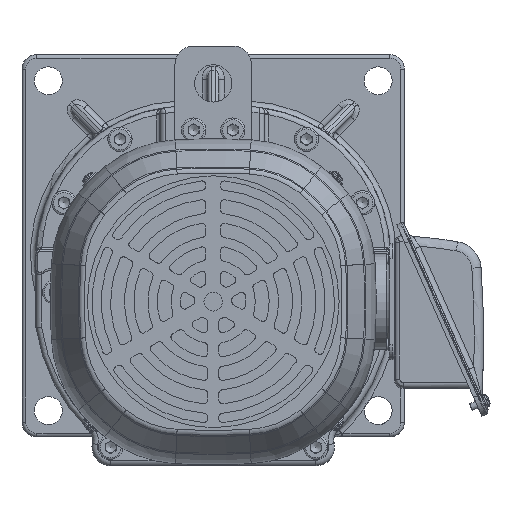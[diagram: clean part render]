
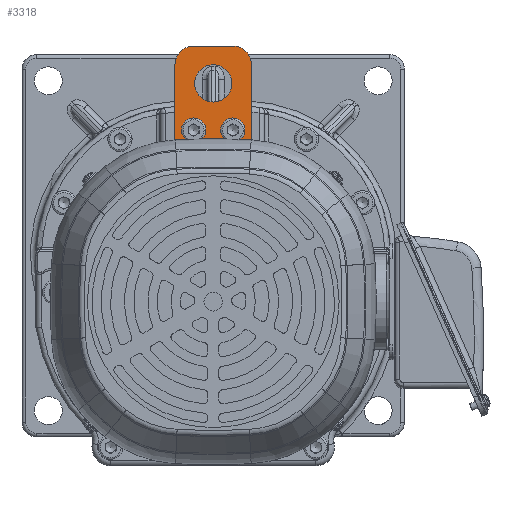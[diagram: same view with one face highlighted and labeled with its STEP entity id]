
A CAD part, left-side view. The second image highlights one B-rep face of the part: STEP entity #3318.
In plain terms, the highlighted planar face has unit normal (-1, 0, 0).
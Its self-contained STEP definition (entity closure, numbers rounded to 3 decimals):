
#3318 = ADVANCED_FACE( '', ( #8130, #8131, #8132, #8133 ), #8134, .T. );
#8130 = FACE_BOUND( '', #19453, .T. );
#8131 = FACE_OUTER_BOUND( '', #19454, .T. );
#8132 = FACE_BOUND( '', #19455, .T. );
#8133 = FACE_BOUND( '', #19456, .T. );
#8134 = PLANE( '', #19457 );
#19453 = EDGE_LOOP( '', ( #37246 ) );
#19454 = EDGE_LOOP( '', ( #37247, #37248, #37249, #37250, #37251, #37252, #37253, #37254 ) );
#19455 = EDGE_LOOP( '', ( #37255 ) );
#19456 = EDGE_LOOP( '', ( #37256 ) );
#19457 = AXIS2_PLACEMENT_3D( '', #37257, #37258, #37259 );
#37246 = ORIENTED_EDGE( '', *, *, #51553, .F. );
#37247 = ORIENTED_EDGE( '', *, *, #49756, .T. );
#37248 = ORIENTED_EDGE( '', *, *, #51554, .T. );
#37249 = ORIENTED_EDGE( '', *, *, #51555, .T. );
#37250 = ORIENTED_EDGE( '', *, *, #51556, .T. );
#37251 = ORIENTED_EDGE( '', *, *, #51557, .T. );
#37252 = ORIENTED_EDGE( '', *, *, #51558, .T. );
#37253 = ORIENTED_EDGE( '', *, *, #51559, .T. );
#37254 = ORIENTED_EDGE( '', *, *, #51560, .T. );
#37255 = ORIENTED_EDGE( '', *, *, #51561, .T. );
#37256 = ORIENTED_EDGE( '', *, *, #51562, .F. );
#37257 = CARTESIAN_POINT( '', ( 15.737, -89.444, 62.268 ) );
#37258 = DIRECTION( '', ( -1., 0., 0. ) );
#37259 = DIRECTION( '', ( 0., 0., -1. ) );
#49756 = EDGE_CURVE( '', #57328, #57326, #57329, .T. );
#51553 = EDGE_CURVE( '', #60169, #60169, #60170, .T. );
#51554 = EDGE_CURVE( '', #57326, #60171, #60172, .T. );
#51555 = EDGE_CURVE( '', #60171, #60173, #60174, .T. );
#51556 = EDGE_CURVE( '', #60173, #60175, #60176, .T. );
#51557 = EDGE_CURVE( '', #60175, #60177, #60178, .T. );
#51558 = EDGE_CURVE( '', #60177, #60179, #60180, .T. );
#51559 = EDGE_CURVE( '', #60179, #60181, #60182, .T. );
#51560 = EDGE_CURVE( '', #60181, #57328, #60183, .T. );
#51561 = EDGE_CURVE( '', #60184, #60184, #60185, .T. );
#51562 = EDGE_CURVE( '', #60186, #60186, #60187, .T. );
#57326 = VERTEX_POINT( '', #68935 );
#57328 = VERTEX_POINT( '', #68938 );
#57329 = CIRCLE( '', #68939, 5. );
#60169 = VERTEX_POINT( '', #74552 );
#60170 = CIRCLE( '', #74553, 6.5 );
#60171 = VERTEX_POINT( '', #74554 );
#60172 = LINE( '', #74555, #74556 );
#60173 = VERTEX_POINT( '', #74557 );
#60174 = CIRCLE( '', #74558, 5. );
#60175 = VERTEX_POINT( '', #74559 );
#60176 = LINE( '', #74560, #74561 );
#60177 = VERTEX_POINT( '', #74562 );
#60178 = CIRCLE( '', #74563, 10. );
#60179 = VERTEX_POINT( '', #74564 );
#60180 = LINE( '', #74565, #74566 );
#60181 = VERTEX_POINT( '', #74567 );
#60182 = CIRCLE( '', #74568, 10. );
#60183 = LINE( '', #74569, #74570 );
#60184 = VERTEX_POINT( '', #74571 );
#60185 = CIRCLE( '', #74572, 10. );
#60186 = VERTEX_POINT( '', #74573 );
#60187 = CIRCLE( '', #74574, 6.5 );
#68935 = CARTESIAN_POINT( '', ( 15.737, -89.444, 57.268 ) );
#68938 = CARTESIAN_POINT( '', ( 15.737, -84.444, 62.268 ) );
#68939 = AXIS2_PLACEMENT_3D( '', #84657, #84658, #84659 );
#74552 = CARTESIAN_POINT( '', ( 15.737, -121.944, 67.268 ) );
#74553 = AXIS2_PLACEMENT_3D( '', #87550, #87551, #87552 );
#74554 = CARTESIAN_POINT( '', ( 15.737, -120.444, 57.268 ) );
#74555 = CARTESIAN_POINT( '', ( 15.737, -89.444, 57.268 ) );
#74556 = VECTOR( '', #87553, 1000. );
#74557 = CARTESIAN_POINT( '', ( 15.737, -125.444, 62.268 ) );
#74558 = AXIS2_PLACEMENT_3D( '', #87554, #87555, #87556 );
#74559 = CARTESIAN_POINT( '', ( 15.737, -125.444, 102.268 ) );
#74560 = CARTESIAN_POINT( '', ( 15.737, -125.444, 62.268 ) );
#74561 = VECTOR( '', #87557, 1000. );
#74562 = CARTESIAN_POINT( '', ( 15.737, -115.444, 112.268 ) );
#74563 = AXIS2_PLACEMENT_3D( '', #87558, #87559, #87560 );
#74564 = CARTESIAN_POINT( '', ( 15.737, -94.444, 112.268 ) );
#74565 = CARTESIAN_POINT( '', ( 15.737, -115.444, 112.268 ) );
#74566 = VECTOR( '', #87561, 1000. );
#74567 = CARTESIAN_POINT( '', ( 15.737, -84.444, 102.268 ) );
#74568 = AXIS2_PLACEMENT_3D( '', #87562, #87563, #87564 );
#74569 = CARTESIAN_POINT( '', ( 15.737, -84.444, 102.268 ) );
#74570 = VECTOR( '', #87565, 1000. );
#74571 = CARTESIAN_POINT( '', ( 15.737, -114.944, 92.268 ) );
#74572 = AXIS2_PLACEMENT_3D( '', #87566, #87567, #87568 );
#74573 = CARTESIAN_POINT( '', ( 15.737, -100.944, 67.268 ) );
#74574 = AXIS2_PLACEMENT_3D( '', #87569, #87570, #87571 );
#84657 = CARTESIAN_POINT( '', ( 15.737, -89.444, 62.268 ) );
#84658 = DIRECTION( '', ( -1., 0., 0. ) );
#84659 = DIRECTION( '', ( 0., -1., 0. ) );
#87550 = CARTESIAN_POINT( '', ( 15.737, -115.444, 67.268 ) );
#87551 = DIRECTION( '', ( -1., 0., 0. ) );
#87552 = DIRECTION( '', ( 0., -1., 0. ) );
#87553 = DIRECTION( '', ( 0., -1., 0. ) );
#87554 = CARTESIAN_POINT( '', ( 15.737, -120.444, 62.268 ) );
#87555 = DIRECTION( '', ( -1., 0., 0. ) );
#87556 = DIRECTION( '', ( 0., 1., 0. ) );
#87557 = DIRECTION( '', ( 0., 0., 1. ) );
#87558 = CARTESIAN_POINT( '', ( 15.737, -115.444, 102.268 ) );
#87559 = DIRECTION( '', ( -1., 0., 0. ) );
#87560 = DIRECTION( '', ( 0., 1., 0. ) );
#87561 = DIRECTION( '', ( 0., 1., 0. ) );
#87562 = CARTESIAN_POINT( '', ( 15.737, -94.444, 102.268 ) );
#87563 = DIRECTION( '', ( -1., 0., 0. ) );
#87564 = DIRECTION( '', ( 0., -1., 0. ) );
#87565 = DIRECTION( '', ( 0., 0., -1. ) );
#87566 = CARTESIAN_POINT( '', ( 15.737, -104.944, 92.268 ) );
#87567 = DIRECTION( '', ( 1., 0., 0. ) );
#87568 = DIRECTION( '', ( 0., -1., 0. ) );
#87569 = CARTESIAN_POINT( '', ( 15.737, -94.444, 67.268 ) );
#87570 = DIRECTION( '', ( -1., 0., 0. ) );
#87571 = DIRECTION( '', ( 0., -1., 0. ) );
